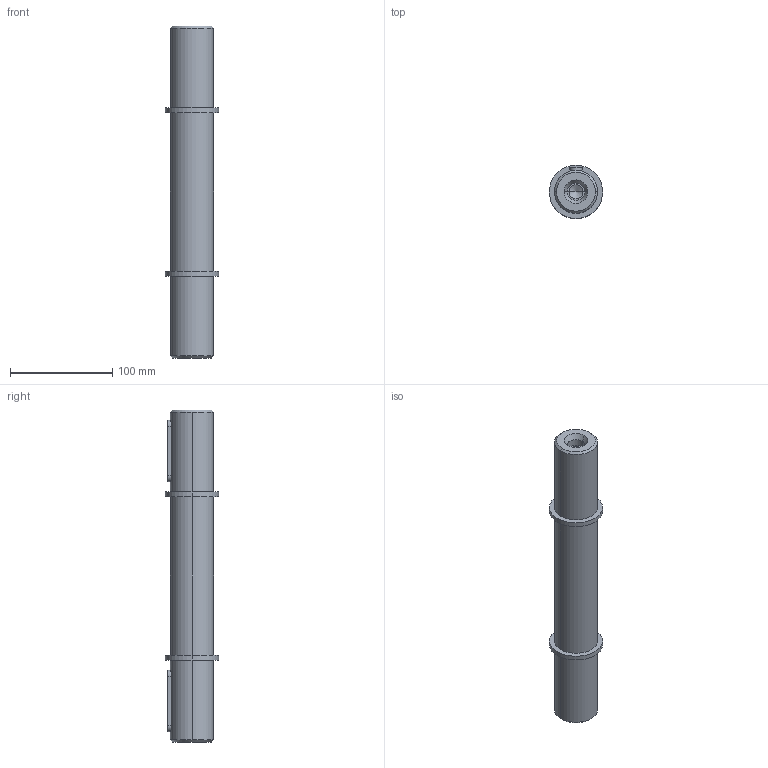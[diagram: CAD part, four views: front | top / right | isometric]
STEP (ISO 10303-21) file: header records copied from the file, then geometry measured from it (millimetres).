
FILE_DESCRIPTION(/* description */ (''),/* implementation_level */ '2;1');
FILE_NAME(/* name */ '3_ALBERO LENTO BISPORGENTE NMRV-P110',/* time_stamp */ '2025-10-09T15:37:08+02:00',/* author */ (''),/* organization */ (''),/* preprocessor_version */ 'ST-DEVELOPER v19.2',/* originating_system */ 'Rhino 8.23',/* authorisation */ '');
FILE_SCHEMA (('CONFIG_CONTROL_DESIGN'));
Length unit declared in the file: millimetre
Products named in the file (2): Document; AL 110-42(2-0)-p
Bounding box: 52 x 52 x 324 mm (x, y, z)
Volume: 443120.8 mm3; surface area: 53449 mm2
Topology: 1 solids, 1 shells, 48 faces, 103 edges, 63 vertices
Faces by surface type: cylinder 22, plane 14, bspline 12
Entity records: 1609 total; most frequent: CARTESIAN_POINT 498, ORIENTED_EDGE 198, DIRECTION 142, EDGE_CURVE 99, AXIS2_PLACEMENT_3D 89, VERTEX_POINT 63, EDGE_LOOP 58, B_SPLINE_CURVE_WITH_KNOTS 50
